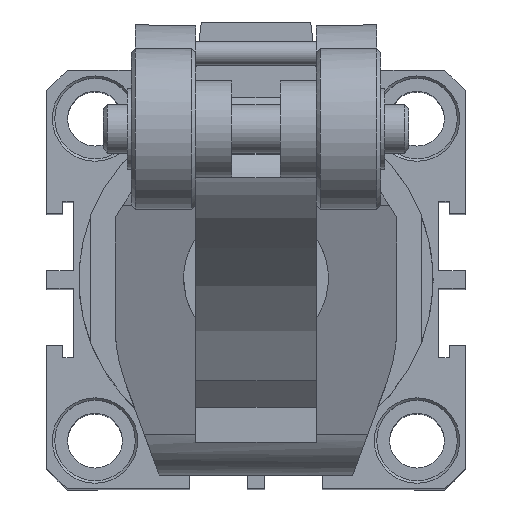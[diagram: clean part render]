
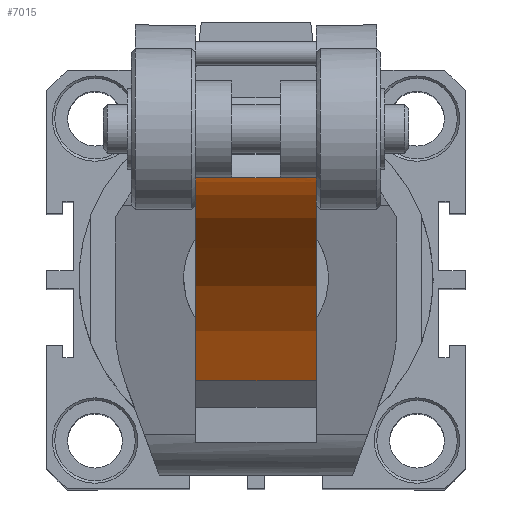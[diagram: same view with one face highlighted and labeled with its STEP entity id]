
A CAD part, top view. The second image highlights one B-rep face of the part: STEP entity #7015.
In plain terms, the highlighted cylindrical face has radius 45 mm (diameter 90 mm), a partial arc.
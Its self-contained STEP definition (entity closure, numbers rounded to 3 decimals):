
#1178=CARTESIAN_POINT('',(8.598,13.512,202.638));
#1179=VERTEX_POINT('',#1178);
#1187=CARTESIAN_POINT('',(8.098,13.512,202.638));
#1188=VERTEX_POINT('',#1187);
#1189=CARTESIAN_POINT('',(8.098,13.512,202.638));
#1190=DIRECTION('',(1.0,0.0,0.0));
#1191=VECTOR('',#1190,0.5);
#1192=LINE('',#1189,#1191);
#1193=EDGE_CURVE('',#1188,#1179,#1192,.T.);
#1248=CARTESIAN_POINT('',(8.098,13.601,203.229));
#1249=VERTEX_POINT('',#1248);
#1257=CARTESIAN_POINT('',(8.098,13.601,203.229));
#1258=CARTESIAN_POINT('',(8.262,13.572,203.032));
#1259=CARTESIAN_POINT('',(8.429,13.543,202.835));
#1260=CARTESIAN_POINT('',(8.598,13.512,202.638));
#1261=B_SPLINE_CURVE_WITH_KNOTS('',3,(#1257,#1258,#1259,#1260),.UNSPECIFIED.,.F.,.U.,(4,4),(3.429,3.512),.UNSPECIFIED.);
#1262=EDGE_CURVE('',#1179,#1249,#1261,.F.);
#1290=CARTESIAN_POINT('',(-7.402,13.512,202.638));
#1291=VERTEX_POINT('',#1290);
#1299=CARTESIAN_POINT('',(-6.902,13.601,203.229));
#1300=VERTEX_POINT('',#1299);
#1301=CARTESIAN_POINT('',(-7.402,13.512,202.638));
#1302=CARTESIAN_POINT('',(-7.233,13.543,202.835));
#1303=CARTESIAN_POINT('',(-7.066,13.572,203.032));
#1304=CARTESIAN_POINT('',(-6.902,13.601,203.229));
#1305=B_SPLINE_CURVE_WITH_KNOTS('',3,(#1301,#1302,#1303,#1304),.UNSPECIFIED.,.F.,.U.,(4,4),(1.581,1.664),.UNSPECIFIED.);
#1306=EDGE_CURVE('',#1291,#1300,#1305,.T.);
#1324=CARTESIAN_POINT('',(-6.902,14.055,210.133));
#1325=VERTEX_POINT('',#1324);
#1326=CARTESIAN_POINT('',(-6.902,-30.942,209.629));
#1327=DIRECTION('',(-1.0,0.,0.));
#1328=DIRECTION('',(0.,0.439,-0.898));
#1329=AXIS2_PLACEMENT_3D('',#1326,#1327,#1328);
#1330=CIRCLE('',#1329,45.0);
#1331=EDGE_CURVE('',#1325,#1300,#1330,.T.);
#1412=CARTESIAN_POINT('',(-6.902,13.512,202.638));
#1413=VERTEX_POINT('',#1412);
#1421=CARTESIAN_POINT('',(-7.402,13.512,202.638));
#1422=DIRECTION('',(1.0,0.,0.));
#1423=VECTOR('',#1422,0.5);
#1424=LINE('',#1421,#1423);
#1425=EDGE_CURVE('',#1291,#1413,#1424,.T.);
#1836=CARTESIAN_POINT('',(-2.402,13.966,206.747));
#1837=VERTEX_POINT('',#1836);
#1906=CARTESIAN_POINT('',(-2.402,14.055,210.133));
#1907=VERTEX_POINT('',#1906);
#1915=CARTESIAN_POINT('',(-2.402,-30.942,209.629));
#1916=DIRECTION('',(1.0,0.,0.));
#1917=DIRECTION('',(0.,0.439,-0.898));
#1918=AXIS2_PLACEMENT_3D('',#1915,#1916,#1917);
#1919=CIRCLE('',#1918,45.0);
#1920=EDGE_CURVE('',#1837,#1907,#1919,.T.);
#1943=CARTESIAN_POINT('',(3.598,14.055,210.133));
#1944=VERTEX_POINT('',#1943);
#2011=CARTESIAN_POINT('',(3.598,13.966,206.747));
#2012=VERTEX_POINT('',#2011);
#2020=CARTESIAN_POINT('',(3.598,-30.942,209.629));
#2021=DIRECTION('',(-1.0,0.,0.));
#2022=DIRECTION('',(0.,0.439,-0.898));
#2023=AXIS2_PLACEMENT_3D('',#2020,#2021,#2022);
#2024=CIRCLE('',#2023,45.0);
#2025=EDGE_CURVE('',#1944,#2012,#2024,.T.);
#6946=CARTESIAN_POINT('',(-2.402,14.055,210.133));
#6947=DIRECTION('',(-1.0,0.0,0.0));
#6948=VECTOR('',#6947,4.5);
#6949=LINE('',#6946,#6948);
#6950=EDGE_CURVE('',#1907,#1325,#6949,.T.);
#6955=CARTESIAN_POINT('',(0.598,-30.942,209.629));
#6956=DIRECTION('',(1.0,0.,0.0));
#6957=DIRECTION('',(0.,0.439,-0.898));
#6958=AXIS2_PLACEMENT_3D('',#6955,#6956,#6957);
#6959=CYLINDRICAL_SURFACE('',#6958,45.0);
#6960=ORIENTED_EDGE('',*,*,#1920,.T.);
#6961=ORIENTED_EDGE('',*,*,#6950,.T.);
#6962=ORIENTED_EDGE('',*,*,#1331,.T.);
#6963=ORIENTED_EDGE('',*,*,#1306,.F.);
#6964=ORIENTED_EDGE('',*,*,#1425,.T.);
#6965=CARTESIAN_POINT('',(-6.902,-11.181,169.2));
#6966=VERTEX_POINT('',#6965);
#6967=CARTESIAN_POINT('',(-6.902,-30.942,209.629));
#6968=DIRECTION('',(-1.0,0.,0.));
#6969=DIRECTION('',(0.,0.439,-0.898));
#6970=AXIS2_PLACEMENT_3D('',#6967,#6968,#6969);
#6971=CIRCLE('',#6970,45.0);
#6972=EDGE_CURVE('',#1413,#6966,#6971,.T.);
#6973=ORIENTED_EDGE('',*,*,#6972,.T.);
#6974=CARTESIAN_POINT('',(8.098,-11.181,169.2));
#6975=VERTEX_POINT('',#6974);
#6976=CARTESIAN_POINT('',(8.098,-11.181,169.2));
#6977=DIRECTION('',(-1.0,0.0,0.0));
#6978=VECTOR('',#6977,15.0);
#6979=LINE('',#6976,#6978);
#6980=EDGE_CURVE('',#6975,#6966,#6979,.T.);
#6981=ORIENTED_EDGE('',*,*,#6980,.F.);
#6982=CARTESIAN_POINT('',(8.098,-30.942,209.629));
#6983=DIRECTION('',(1.0,0.,0.));
#6984=DIRECTION('',(0.,0.439,-0.898));
#6985=AXIS2_PLACEMENT_3D('',#6982,#6983,#6984);
#6986=CIRCLE('',#6985,45.0);
#6987=EDGE_CURVE('',#6975,#1188,#6986,.T.);
#6988=ORIENTED_EDGE('',*,*,#6987,.T.);
#6989=ORIENTED_EDGE('',*,*,#1193,.T.);
#6990=ORIENTED_EDGE('',*,*,#1262,.T.);
#6991=CARTESIAN_POINT('',(8.098,14.055,210.133));
#6992=VERTEX_POINT('',#6991);
#6993=CARTESIAN_POINT('',(8.098,-30.942,209.629));
#6994=DIRECTION('',(1.0,0.,0.));
#6995=DIRECTION('',(0.,0.439,-0.898));
#6996=AXIS2_PLACEMENT_3D('',#6993,#6994,#6995);
#6997=CIRCLE('',#6996,45.0);
#6998=EDGE_CURVE('',#1249,#6992,#6997,.T.);
#6999=ORIENTED_EDGE('',*,*,#6998,.T.);
#7000=CARTESIAN_POINT('',(8.098,14.055,210.133));
#7001=DIRECTION('',(-1.0,0.0,0.0));
#7002=VECTOR('',#7001,4.5);
#7003=LINE('',#7000,#7002);
#7004=EDGE_CURVE('',#6992,#1944,#7003,.T.);
#7005=ORIENTED_EDGE('',*,*,#7004,.T.);
#7006=ORIENTED_EDGE('',*,*,#2025,.T.);
#7007=CARTESIAN_POINT('',(3.598,13.966,206.747));
#7008=DIRECTION('',(-1.0,0.0,0.0));
#7009=VECTOR('',#7008,6.);
#7010=LINE('',#7007,#7009);
#7011=EDGE_CURVE('',#2012,#1837,#7010,.T.);
#7012=ORIENTED_EDGE('',*,*,#7011,.T.);
#7013=EDGE_LOOP('',(#6960,#6961,#6962,#6963,#6964,#6973,#6981,#6988,#6989,#6990,#6999,#7005,#7006,#7012));
#7014=FACE_OUTER_BOUND('',#7013,.T.);
#7015=ADVANCED_FACE('',(#7014),#6959,.F.);
